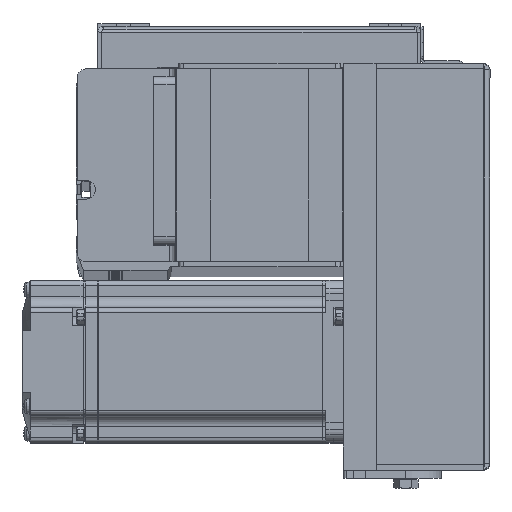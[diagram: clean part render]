
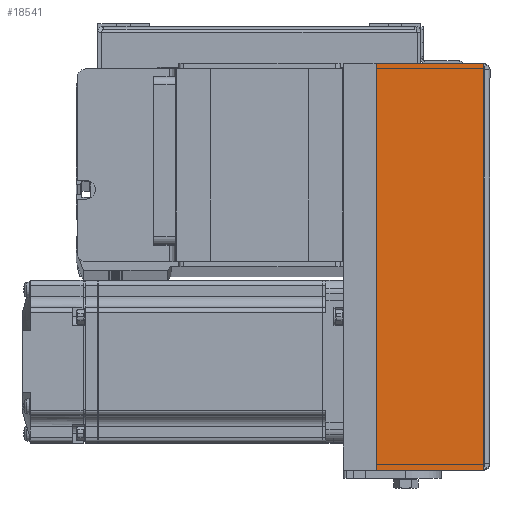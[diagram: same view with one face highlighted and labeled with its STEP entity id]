
A CAD part, top view. The second image highlights one B-rep face of the part: STEP entity #18541.
In plain terms, the highlighted planar face has unit normal (0, 0, 1) as drawn and (0, 1, 0) by its records, which use the part's own axes.
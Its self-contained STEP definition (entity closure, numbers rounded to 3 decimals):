
#36 = CARTESIAN_POINT ( 'NONE',  ( -75., 36., 51.5 ) ) ;
#2418 = DIRECTION ( 'NONE',  ( 0., 0., -1. ) ) ;
#3817 = VERTEX_POINT ( 'NONE', #18268 ) ;
#4528 = LINE ( 'NONE', #13609, #33193 ) ;
#4950 = CARTESIAN_POINT ( 'NONE',  ( 75., 36., 51.5 ) ) ;
#4965 = CARTESIAN_POINT ( 'NONE',  ( -75., 36., 12. ) ) ;
#5891 = FACE_OUTER_BOUND ( 'NONE', #25653, .T. ) ;
#6090 = VERTEX_POINT ( 'NONE', #10778 ) ;
#6678 = EDGE_CURVE ( 'NONE', #11834, #6090, #15048, .T. ) ;
#7890 = DIRECTION ( 'NONE',  ( 0., 0., -1. ) ) ;
#8065 = ORIENTED_EDGE ( 'NONE', *, *, #28010, .T. ) ;
#9257 = VECTOR ( 'NONE', #19847, 1000. ) ;
#10778 = CARTESIAN_POINT ( 'NONE',  ( 75., 36., 12. ) ) ;
#11765 = VECTOR ( 'NONE', #17650, 1000. ) ;
#11834 = VERTEX_POINT ( 'NONE', #4950 ) ;
#13609 = CARTESIAN_POINT ( 'NONE',  ( -75., 36., 51.5 ) ) ;
#14413 = DIRECTION ( 'NONE',  ( 0., 0., 1. ) ) ;
#14977 = CARTESIAN_POINT ( 'NONE',  ( 0., 36., 52. ) ) ;
#15048 = LINE ( 'NONE', #39125, #24033 ) ;
#17650 = DIRECTION ( 'NONE',  ( -1., 0., 0. ) ) ;
#18268 = CARTESIAN_POINT ( 'NONE',  ( -75., 36., 51.5 ) ) ;
#18541 = ADVANCED_FACE ( 'NONE', ( #5891 ), #36228, .F. ) ;
#19847 = DIRECTION ( 'NONE',  ( -1., 0., 0. ) ) ;
#21393 = VERTEX_POINT ( 'NONE', #4965 ) ;
#22830 = EDGE_CURVE ( 'NONE', #3817, #21393, #4528, .T. ) ;
#24033 = VECTOR ( 'NONE', #2418, 1000. ) ;
#25580 = ORIENTED_EDGE ( 'NONE', *, *, #28199, .F. ) ;
#25653 = EDGE_LOOP ( 'NONE', ( #25580, #34556, #8065, #29913 ) ) ;
#26221 = CARTESIAN_POINT ( 'NONE',  ( 0., 36., 12. ) ) ;
#28010 = EDGE_CURVE ( 'NONE', #6090, #21393, #35154, .T. ) ;
#28199 = EDGE_CURVE ( 'NONE', #11834, #3817, #35938, .T. ) ;
#29913 = ORIENTED_EDGE ( 'NONE', *, *, #22830, .F. ) ;
#33193 = VECTOR ( 'NONE', #7890, 1000. ) ;
#33221 = DIRECTION ( 'NONE',  ( 0., -1., 0. ) ) ;
#34556 = ORIENTED_EDGE ( 'NONE', *, *, #6678, .T. ) ;
#35154 = LINE ( 'NONE', #26221, #9257 ) ;
#35938 = LINE ( 'NONE', #36, #11765 ) ;
#36228 = PLANE ( 'NONE',  #38958 ) ;
#38958 = AXIS2_PLACEMENT_3D ( 'NONE', #14977, #33221, #14413 ) ;
#39125 = CARTESIAN_POINT ( 'NONE',  ( 75., 36., 51.5 ) ) ;
